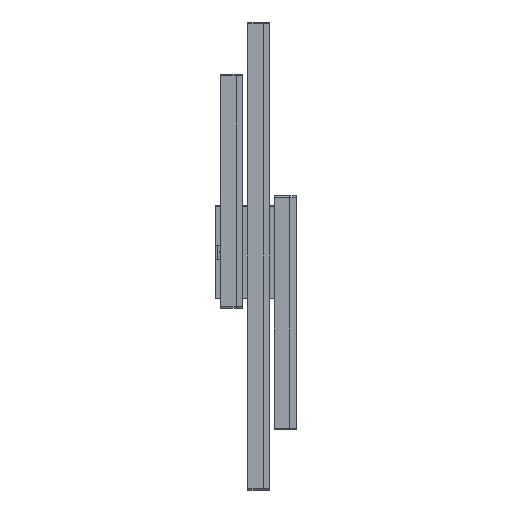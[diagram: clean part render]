
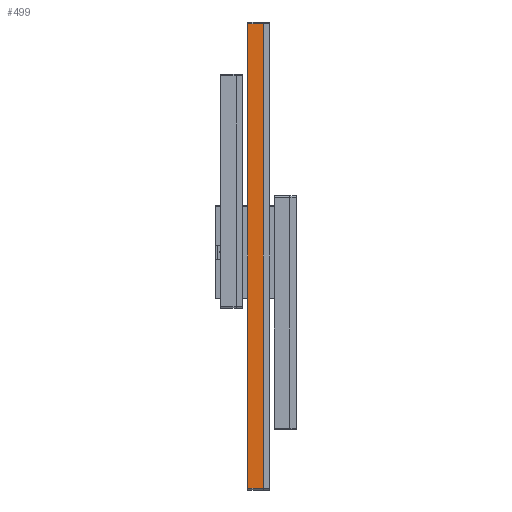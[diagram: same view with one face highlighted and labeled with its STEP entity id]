
A CAD part, left-side view. The second image highlights one B-rep face of the part: STEP entity #499.
In plain terms, the highlighted planar face has unit normal (-1, 0, 0).
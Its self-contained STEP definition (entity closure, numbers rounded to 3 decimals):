
#244=PLANE('',#4851);
#499=ADVANCED_FACE('',(#837),#244,.F.);
#837=FACE_OUTER_BOUND('',#1089,.T.);
#1089=EDGE_LOOP('',(#2569,#2570,#2571,#2572));
#1430=LINE('',#6894,#1824);
#1437=LINE('',#6923,#1831);
#1447=LINE('',#6953,#1841);
#1448=LINE('',#6954,#1842);
#1824=VECTOR('',#5614,1.);
#1831=VECTOR('',#5637,1.);
#1841=VECTOR('',#5665,1.);
#1842=VECTOR('',#5666,1.);
#2569=ORIENTED_EDGE('',*,*,#4055,.T.);
#2570=ORIENTED_EDGE('',*,*,#4071,.T.);
#2571=ORIENTED_EDGE('',*,*,#4041,.F.);
#2572=ORIENTED_EDGE('',*,*,#4072,.T.);
#3527=VERTEX_POINT('',#6893);
#3528=VERTEX_POINT('',#6895);
#3541=VERTEX_POINT('',#6922);
#3542=VERTEX_POINT('',#6924);
#4041=EDGE_CURVE('',#3527,#3528,#1430,.T.);
#4055=EDGE_CURVE('',#3542,#3541,#1437,.T.);
#4071=EDGE_CURVE('',#3541,#3528,#1447,.T.);
#4072=EDGE_CURVE('',#3527,#3542,#1448,.T.);
#4851=AXIS2_PLACEMENT_3D('',#6955,#5667,#5668);
#5614=DIRECTION('',(0.,0.,1.));
#5637=DIRECTION('',(0.,0.,1.));
#5665=DIRECTION('',(0.,1.,0.));
#5666=DIRECTION('',(0.,-1.,0.));
#5667=DIRECTION('',(1.,0.,0.));
#5668=DIRECTION('',(0.,0.,1.));
#6893=CARTESIAN_POINT('',(-198.,54.,-303.));
#6894=CARTESIAN_POINT('',(-198.,54.,295.));
#6895=CARTESIAN_POINT('',(-198.,54.,293.));
#6922=CARTESIAN_POINT('',(-198.,34.,293.));
#6923=CARTESIAN_POINT('',(-198.,34.,295.));
#6924=CARTESIAN_POINT('',(-198.,34.,-303.));
#6953=CARTESIAN_POINT('',(-198.,54.,293.));
#6954=CARTESIAN_POINT('',(-198.,54.,-303.));
#6955=CARTESIAN_POINT('',(-198.,54.,295.));
